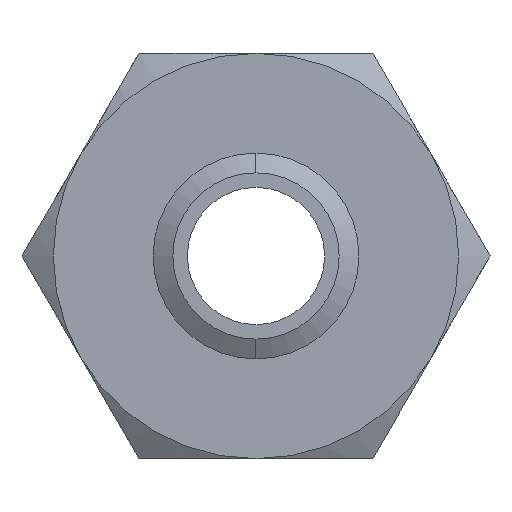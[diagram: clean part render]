
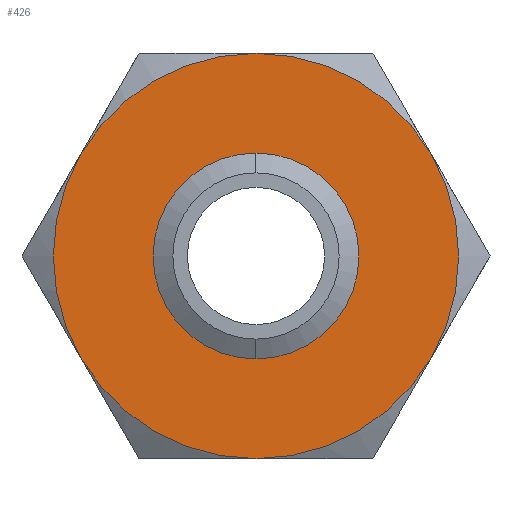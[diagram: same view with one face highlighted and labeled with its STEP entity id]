
A CAD part, front view. The second image highlights one B-rep face of the part: STEP entity #426.
In plain terms, the highlighted planar face has unit normal (0, -1, 0).
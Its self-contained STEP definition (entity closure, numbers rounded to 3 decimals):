
#415 = VERTEX_POINT ( 'NONE', #1324 ) ;
#416 = ORIENTED_EDGE ( 'NONE', *, *, #417, .F. ) ;
#417 = EDGE_CURVE ( 'NONE', #420, #471, #1323, .T. ) ;
#418 = EDGE_CURVE ( 'NONE', #415, #472, #1318, .T. ) ;
#419 = EDGE_CURVE ( 'NONE', #471, #415, #1313, .T. ) ;
#420 = VERTEX_POINT ( 'NONE', #1308 ) ;
#421 = ORIENTED_EDGE ( 'NONE', *, *, #427, .F. ) ;
#422 = ORIENTED_EDGE ( 'NONE', *, *, #423, .F. ) ;
#423 = EDGE_CURVE ( 'NONE', #472, #430, #1307, .T. ) ;
#426 = ADVANCED_FACE ( 'NONE', ( #1297, #1296 ), #1295, .F. ) ;
#427 = EDGE_CURVE ( 'NONE', #430, #428, #1352, .T. ) ;
#428 = VERTEX_POINT ( 'NONE', #1344 ) ;
#429 = EDGE_LOOP ( 'NONE', ( #421, #422, #469, #470, #416, #473 ) ) ;
#430 = VERTEX_POINT ( 'NONE', #1343 ) ;
#463 = ORIENTED_EDGE ( 'NONE', *, *, #467, .F. ) ;
#467 = EDGE_CURVE ( 'NONE', #2148, #2094, #1399, .T. ) ;
#468 = ORIENTED_EDGE ( 'NONE', *, *, #2092, .F. ) ;
#469 = ORIENTED_EDGE ( 'NONE', *, *, #418, .F. ) ;
#470 = ORIENTED_EDGE ( 'NONE', *, *, #419, .F. ) ;
#471 = VERTEX_POINT ( 'NONE', #1395 ) ;
#472 = VERTEX_POINT ( 'NONE', #1394 ) ;
#473 = ORIENTED_EDGE ( 'NONE', *, *, #474, .F. ) ;
#474 = EDGE_CURVE ( 'NONE', #428, #420, #1392, .T. ) ;
#475 = EDGE_LOOP ( 'NONE', ( #468, #463 ) ) ;
#1294 = AXIS2_PLACEMENT_3D ( 'NONE', #1351, #1350, #1349 ) ;
#1295 = PLANE ( 'NONE',  #1294 ) ;
#1296 = FACE_BOUND ( 'NONE', #475, .T. ) ;
#1297 = FACE_OUTER_BOUND ( 'NONE', #429, .T. ) ;
#1303 = DIRECTION ( 'NONE',  ( 0., 0., 1. ) ) ;
#1304 = DIRECTION ( 'NONE',  ( 0., 1., 0. ) ) ;
#1305 = CARTESIAN_POINT ( 'NONE',  ( 0., 0., 0. ) ) ;
#1306 = AXIS2_PLACEMENT_3D ( 'NONE', #1305, #1304, #1303 ) ;
#1307 = CIRCLE ( 'NONE', #1306, 37.5 ) ;
#1308 = CARTESIAN_POINT ( 'NONE',  ( 32.476, 0., -18.75 ) ) ;
#1309 = DIRECTION ( 'NONE',  ( 0., 0., 1. ) ) ;
#1310 = DIRECTION ( 'NONE',  ( 0., 1., 0. ) ) ;
#1311 = CARTESIAN_POINT ( 'NONE',  ( 0., 0., 0. ) ) ;
#1312 = AXIS2_PLACEMENT_3D ( 'NONE', #1311, #1310, #1309 ) ;
#1313 = CIRCLE ( 'NONE', #1312, 37.5 ) ;
#1314 = DIRECTION ( 'NONE',  ( 0., 0., 1. ) ) ;
#1315 = DIRECTION ( 'NONE',  ( 0., 1., 0. ) ) ;
#1316 = CARTESIAN_POINT ( 'NONE',  ( 0., 0., 0. ) ) ;
#1317 = AXIS2_PLACEMENT_3D ( 'NONE', #1316, #1315, #1314 ) ;
#1318 = CIRCLE ( 'NONE', #1317, 37.5 ) ;
#1319 = DIRECTION ( 'NONE',  ( 0., 0., 1. ) ) ;
#1320 = DIRECTION ( 'NONE',  ( 0., 1., 0. ) ) ;
#1321 = CARTESIAN_POINT ( 'NONE',  ( 0., 0., 0. ) ) ;
#1322 = AXIS2_PLACEMENT_3D ( 'NONE', #1321, #1320, #1319 ) ;
#1323 = CIRCLE ( 'NONE', #1322, 37.5 ) ;
#1324 = CARTESIAN_POINT ( 'NONE',  ( -32.476, 0., -18.75 ) ) ;
#1343 = CARTESIAN_POINT ( 'NONE',  ( 0., 0., 37.5 ) ) ;
#1344 = CARTESIAN_POINT ( 'NONE',  ( 32.476, 0., 18.75 ) ) ;
#1345 = DIRECTION ( 'NONE',  ( 0., 0., 1. ) ) ;
#1346 = DIRECTION ( 'NONE',  ( 0., 1., 0. ) ) ;
#1347 = CARTESIAN_POINT ( 'NONE',  ( 0., 0., 0. ) ) ;
#1348 = AXIS2_PLACEMENT_3D ( 'NONE', #1347, #1346, #1345 ) ;
#1349 = DIRECTION ( 'NONE',  ( 0., 0., 1. ) ) ;
#1350 = DIRECTION ( 'NONE',  ( 0., 1., 0. ) ) ;
#1351 = CARTESIAN_POINT ( 'NONE',  ( 21.651, 0., -37.5 ) ) ;
#1352 = CIRCLE ( 'NONE', #1348, 37.5 ) ;
#1388 = DIRECTION ( 'NONE',  ( 0., 0., 1. ) ) ;
#1389 = DIRECTION ( 'NONE',  ( 0., 1., 0. ) ) ;
#1390 = CARTESIAN_POINT ( 'NONE',  ( 0., 0., 0. ) ) ;
#1391 = AXIS2_PLACEMENT_3D ( 'NONE', #1390, #1389, #1388 ) ;
#1392 = CIRCLE ( 'NONE', #1391, 37.5 ) ;
#1394 = CARTESIAN_POINT ( 'NONE',  ( -32.476, 0., 18.75 ) ) ;
#1395 = CARTESIAN_POINT ( 'NONE',  ( 0., 0., -37.5 ) ) ;
#1396 = DIRECTION ( 'NONE',  ( 0., 0., -1. ) ) ;
#1397 = DIRECTION ( 'NONE',  ( 0., -1., 0. ) ) ;
#1398 = AXIS2_PLACEMENT_3D ( 'NONE', #1403, #1397, #1396 ) ;
#1399 = CIRCLE ( 'NONE', #1398, 15.387 ) ;
#1403 = CARTESIAN_POINT ( 'NONE',  ( 0., 0., 0. ) ) ;
#1706 = DIRECTION ( 'NONE',  ( 0., -1., 0. ) ) ;
#1707 = CARTESIAN_POINT ( 'NONE',  ( 0., 0., 0. ) ) ;
#1708 = AXIS2_PLACEMENT_3D ( 'NONE', #1707, #1706, #1765 ) ;
#1712 = CIRCLE ( 'NONE', #1708, 15.387 ) ;
#1759 = CARTESIAN_POINT ( 'NONE',  ( 0., 0., -15.387 ) ) ;
#1765 = DIRECTION ( 'NONE',  ( 0., 0., -1. ) ) ;
#1803 = CARTESIAN_POINT ( 'NONE',  ( 0., 0., 15.387 ) ) ;
#2092 = EDGE_CURVE ( 'NONE', #2094, #2148, #1712, .T. ) ;
#2094 = VERTEX_POINT ( 'NONE', #1759 ) ;
#2148 = VERTEX_POINT ( 'NONE', #1803 ) ;
